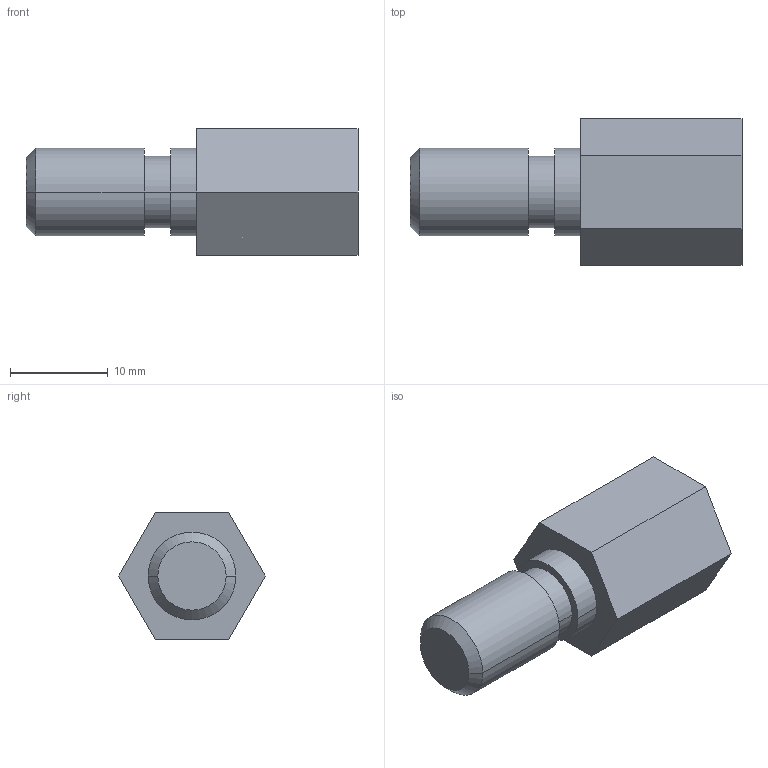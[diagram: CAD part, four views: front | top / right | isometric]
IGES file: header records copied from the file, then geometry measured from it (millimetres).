
Global section: file name: No Iges File Name specified; native system: Autodesk Inventor 2009; preprocessor: AutoDesk Inventor Iges Exporter R2009; author: y-shimohigashi; date: 20080702.095335; units: millimetre
Bounding box: 34 x 15.01 x 13 mm (x, y, z)
Volume: 2788.5 mm3; surface area: 1808.1 mm2
Topology: 1 solids, 1 shells, 22 faces, 46 edges, 30 vertices
Faces by surface type: plane 12, cylinder 6, cone 2, revolution 2
